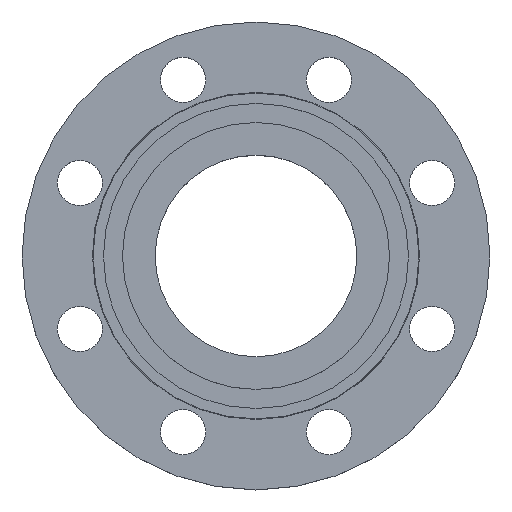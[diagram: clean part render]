
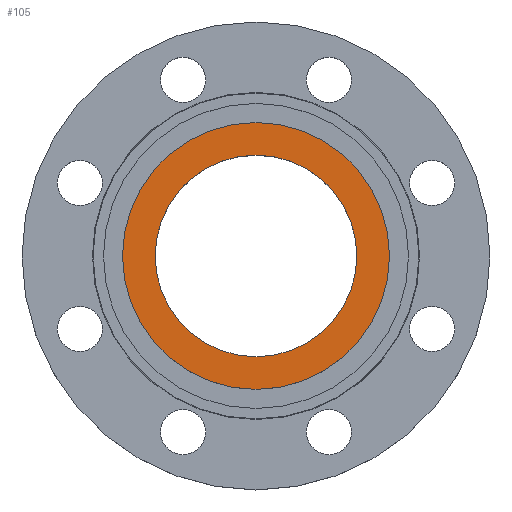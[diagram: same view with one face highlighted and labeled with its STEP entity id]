
A CAD part, top view. The second image highlights one B-rep face of the part: STEP entity #105.
In plain terms, the highlighted planar face has unit normal (0, 0, 1).
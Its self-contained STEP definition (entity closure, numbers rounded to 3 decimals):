
#18 = CARTESIAN_POINT ( 'NONE',  ( 77., 0., 0. ) ) ;
#31 = CARTESIAN_POINT ( 'NONE',  ( -58.17, 0., 0. ) ) ;
#104 = EDGE_CURVE ( 'NONE', #933, #1091, #474, .T. ) ;
#105 = ADVANCED_FACE ( 'NONE', ( #836, #837 ), #838, .T. ) ;
#128 = CIRCLE ( 'NONE', #243, 58.17 ) ;
#243 = AXIS2_PLACEMENT_3D ( 'NONE', #557, #720, #817 ) ;
#319 = CARTESIAN_POINT ( 'NONE',  ( 58.17, 0., 0. ) ) ;
#417 = DIRECTION ( 'NONE',  ( 1., 0., 0. ) ) ;
#418 = DIRECTION ( 'NONE',  ( 0., 0., 1. ) ) ;
#419 = CARTESIAN_POINT ( 'NONE',  ( 0., 0., 0. ) ) ;
#447 = DIRECTION ( 'NONE',  ( -1., 0., 0. ) ) ;
#449 = DIRECTION ( 'NONE',  ( 0., 0., -1. ) ) ;
#450 = CARTESIAN_POINT ( 'NONE',  ( 0., 0., 0. ) ) ;
#459 = EDGE_CURVE ( 'NONE', #1091, #933, #603, .T. ) ;
#474 = CIRCLE ( 'NONE', #823, 77. ) ;
#507 = EDGE_CURVE ( 'NONE', #917, #1096, #936, .T. ) ;
#557 = CARTESIAN_POINT ( 'NONE',  ( 0., 0., 0. ) ) ;
#603 = CIRCLE ( 'NONE', #888, 77. ) ;
#680 = EDGE_LOOP ( 'NONE', ( #1110, #1111 ) ) ;
#720 = DIRECTION ( 'NONE',  ( 0., 0., 1. ) ) ;
#802 = AXIS2_PLACEMENT_3D ( 'NONE', #419, #418, #417 ) ;
#817 = DIRECTION ( 'NONE',  ( 1., 0., 0. ) ) ;
#823 = AXIS2_PLACEMENT_3D ( 'NONE', #831, #834, #835 ) ;
#831 = CARTESIAN_POINT ( 'NONE',  ( 0., 0., 0. ) ) ;
#834 = DIRECTION ( 'NONE',  ( 0., 0., -1. ) ) ;
#835 = DIRECTION ( 'NONE',  ( -1., 0., 0. ) ) ;
#836 = FACE_BOUND ( 'NONE', #934, .T. ) ;
#837 = FACE_OUTER_BOUND ( 'NONE', #680, .T. ) ;
#838 = PLANE ( 'NONE',  #882 ) ;
#850 = CARTESIAN_POINT ( 'NONE',  ( 0., 0., 0. ) ) ;
#851 = DIRECTION ( 'NONE',  ( 0., 0., 1. ) ) ;
#853 = DIRECTION ( 'NONE',  ( 1., 0., 0. ) ) ;
#882 = AXIS2_PLACEMENT_3D ( 'NONE', #850, #851, #853 ) ;
#888 = AXIS2_PLACEMENT_3D ( 'NONE', #450, #449, #447 ) ;
#917 = VERTEX_POINT ( 'NONE', #31 ) ;
#933 = VERTEX_POINT ( 'NONE', #18 ) ;
#934 = EDGE_LOOP ( 'NONE', ( #1107, #1109 ) ) ;
#936 = CIRCLE ( 'NONE', #802, 58.17 ) ;
#1048 = CARTESIAN_POINT ( 'NONE',  ( -77., 0., 0. ) ) ;
#1091 = VERTEX_POINT ( 'NONE', #1048 ) ;
#1094 = EDGE_CURVE ( 'NONE', #1096, #917, #128, .T. ) ;
#1096 = VERTEX_POINT ( 'NONE', #319 ) ;
#1107 = ORIENTED_EDGE ( 'NONE', *, *, #1094, .F. ) ;
#1109 = ORIENTED_EDGE ( 'NONE', *, *, #507, .F. ) ;
#1110 = ORIENTED_EDGE ( 'NONE', *, *, #459, .F. ) ;
#1111 = ORIENTED_EDGE ( 'NONE', *, *, #104, .F. ) ;
